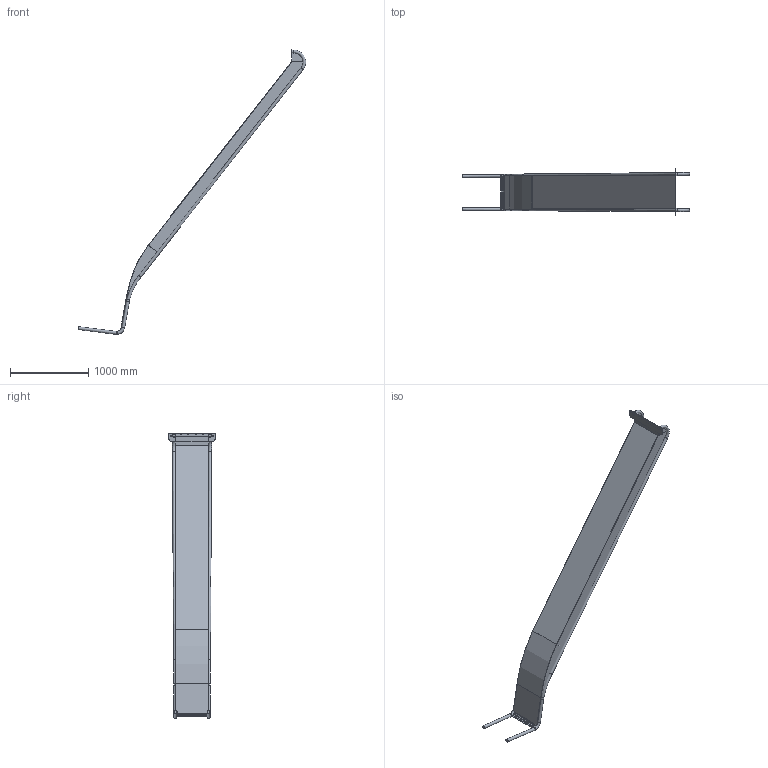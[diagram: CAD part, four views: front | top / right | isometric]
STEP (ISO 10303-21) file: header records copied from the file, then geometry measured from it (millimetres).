
FILE_DESCRIPTION(/* description */ (''),/* implementation_level */ '2;1');
FILE_NAME(/* name */ 'F:\_Inventor\- Tegningsmateriale - kunder\PlayNsafe\PlayNsafe Rutchebaner\100-2400-500 (b500 H2250-2500 uden ører)\100-2400-500.stp',/* time_stamp */ '2026-09-04T11:01:34+02:00',/* author */ ('jm'),/* organization */ (''),/* preprocessor_version */ 'ST-DEVELOPER v18.1',/* originating_system */ 'Autodesk Inventor 2022',/* authorisation */ '');
FILE_SCHEMA (('AUTOMOTIVE_DESIGN { 1 0 10303 214 3 1 1 }'));
Length unit declared in the file: millimetre
Products named in the file (9): 100-2400-500; 100-2400-500 indløb; playnsafe udløb; Lb2200 venstre; bund model til step; udløb til LB2200 model til step; Rutschebane B50 Øre; monterings plade model uden ører; 100-2400-500 rør
Assembly tree (11 placements, depth 3):
  100-2400-500
    100-2400-500 indløb
    playnsafe udløb
      Lb2200 venstre  x2
      bund model til step
      udløb til LB2200 model til step
    Rutschebane B50 Øre  x2
    monterings plade model uden ører
    100-2400-500 rør  x2
Bounding box: 2914.94 x 595 x 3648.55 mm (x, y, z)
Volume: 17490552 mm3; surface area: 7191265.8 mm2
Topology: 10 solids, 10 shells, 236 faces, 545 edges, 330 vertices
Faces by surface type: plane 149, cylinder 66, bspline 11, torus 6, cone 4
Full cylindrical faces by diameter (mm): 6.5 x4, 38 x14, 38.5 x2
Entity records: 7793 total; most frequent: CARTESIAN_POINT 2766, DIRECTION 1011, ORIENTED_EDGE 948, EDGE_CURVE 474, AXIS2_PLACEMENT_3D 340, LINE 331, VECTOR 331, VERTEX_POINT 283
